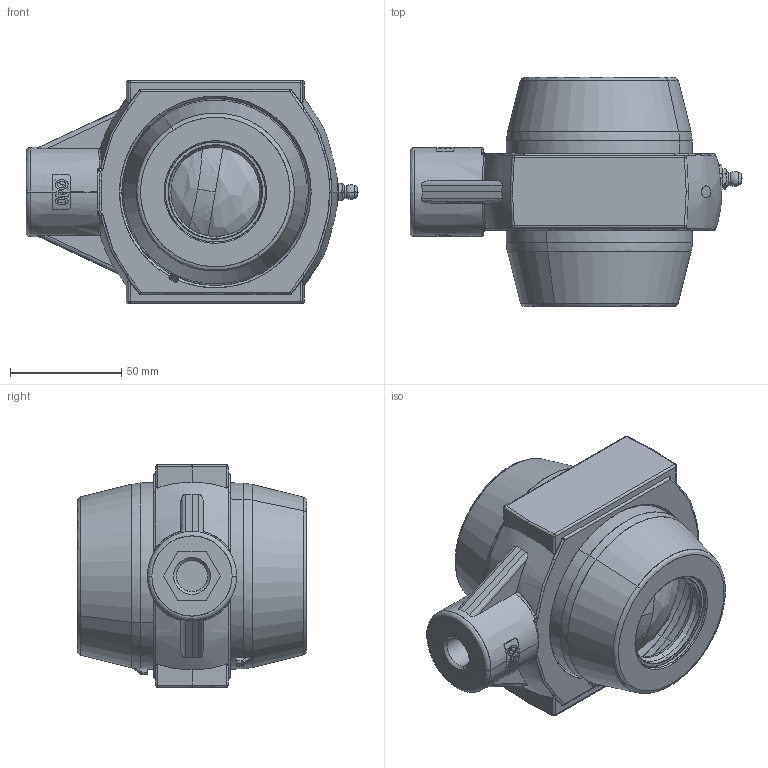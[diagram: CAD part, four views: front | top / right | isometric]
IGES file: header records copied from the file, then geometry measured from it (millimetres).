
Start section: SolidWorks IGES file using analytic representation for surfaces
Global section: file name: P:\DANIEL DISEÑO\INTERCAMBIO ARCHIVOS\3621DC40.IGS; native system: SolidWorks 2022; preprocessor: SolidWorks 2022; author: daniel.portillo; date: 240125.155603; units: millimetre
Bounding box: 149.05 x 102.9 x 100 mm (x, y, z)
Surface area: 146594.6 mm2 (no closed solid volume)
Topology: 0 solids, 0 shells, 1381 faces, 16673 edges, 16655 vertices
Faces by surface type: bspline 958, revolution 423
